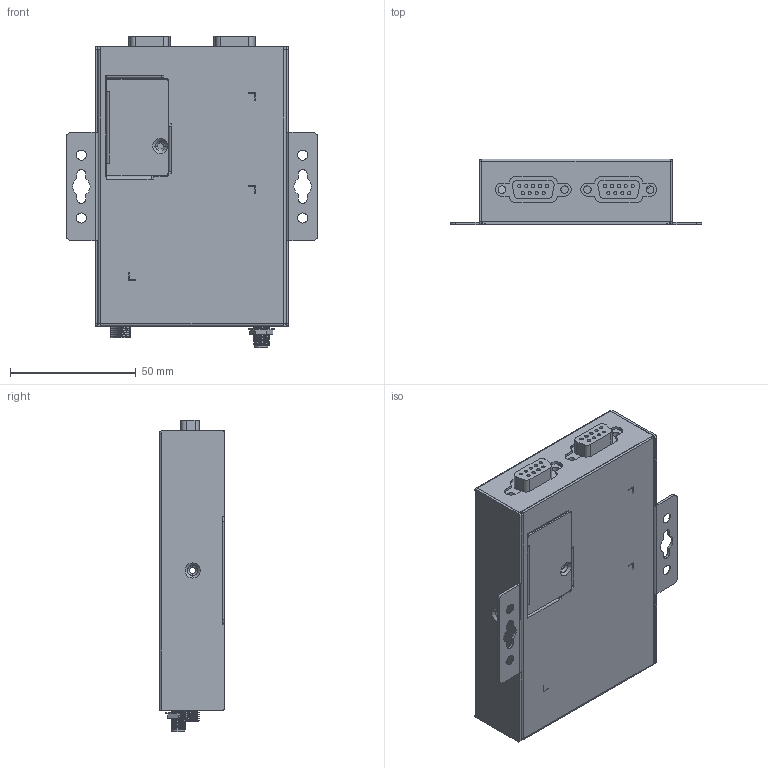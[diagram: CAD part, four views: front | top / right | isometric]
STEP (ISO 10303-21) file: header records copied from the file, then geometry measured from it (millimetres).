
FILE_DESCRIPTION((''),'2;1');
FILE_NAME('ONCELL_G32X1-HSPA','2013-08-08T',('Vincent_Huang'),(''),'PRO/ENGINEER BY PARAMETRIC TECHNOLOGY CORPORATION, 2004320','PRO/ENGINEER BY PARAMETRIC TECHNOLOGY CORPORATION, 2004320','');
FILE_SCHEMA(('CONFIG_CONTROL_DESIGN'));
Length unit declared in the file: millimetre
Products named in the file (1): ONCELL_G32X1-HSPA
Bounding box: 100 x 26 x 123.85 mm (x, y, z)
Volume: 61710.3 mm3; surface area: 94701.1 mm2
Topology: 21 solids, 31 shells, 1769 faces, 4747 edges, 3158 vertices
Faces by surface type: plane 1244, cylinder 446, bspline 51, torus 14, cone 14
Entity records: 60875 total; most frequent: CARTESIAN_POINT 16139, ORIENTED_EDGE 9494, DIRECTION 8786, EDGE_CURVE 4747, VECTOR 3386, LINE 3386, VERTEX_POINT 3158, AXIS2_PLACEMENT_3D 2700
